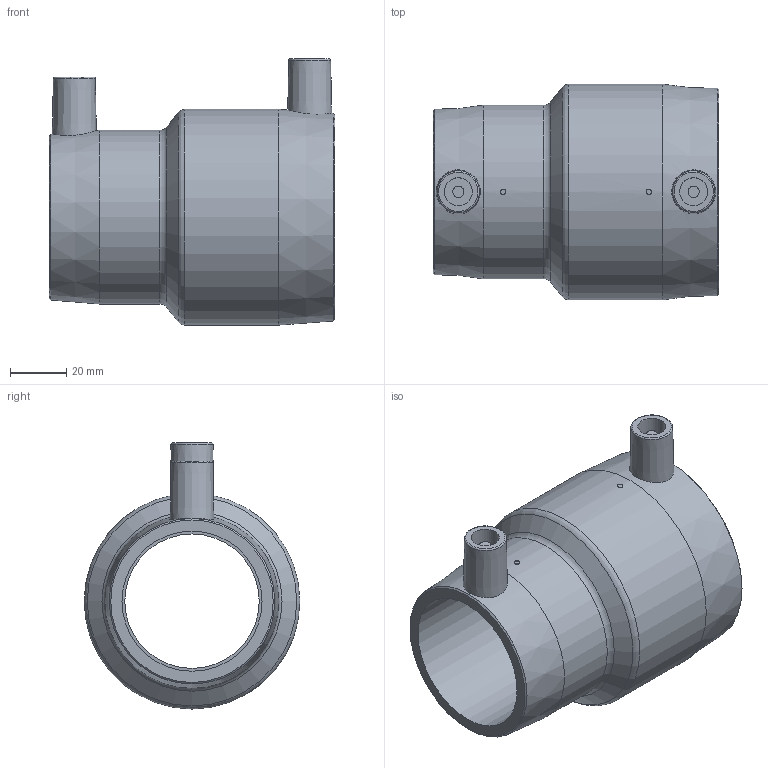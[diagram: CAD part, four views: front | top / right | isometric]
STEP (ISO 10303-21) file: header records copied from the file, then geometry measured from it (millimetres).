
FILE_DESCRIPTION(/* description */ ('Unknown'),/* implementation_level */ '2;1');
FILE_NAME(/* name */ 'REP063050C',/* time_stamp */ '2021-05-25T17:41:55+02:00',/* author */ ('Unknown'),/* organization */ ('Unknown'),/* preprocessor_version */ 'ST-DEVELOPER v16.7',/* originating_system */ 'Solid Edge',/* authorisation */ 'Unknown');
FILE_SCHEMA (('AUTOMOTIVE_DESIGN {1 0 10303 214 3 1 1}'));
Length unit declared in the file: millimetre
Products named in the file (1): REP063050C
Bounding box: 102 x 77 x 95 mm (x, y, z)
Volume: 141153.2 mm3; surface area: 47944.1 mm2
Topology: 1 solids, 1 shells, 34 faces, 73 edges, 47 vertices
Faces by surface type: plane 12, cylinder 11, cone 7, torus 4
Full cylindrical faces by diameter (mm): 2 x2, 4 x2, 10 x2, 48 x1, 50 x1, 62 x1, 63 x1, 77 x1
Entity records: 762 total; most frequent: CARTESIAN_POINT 159, DIRECTION 130, ORIENTED_EDGE 68, EDGE_LOOP 68, FACE_BOUND 68, AXIS2_PLACEMENT_3D 65, EDGE_CURVE 34, VERTEX_POINT 34
